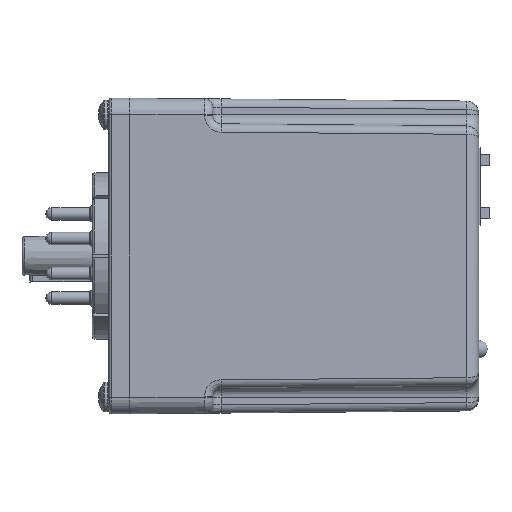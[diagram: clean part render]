
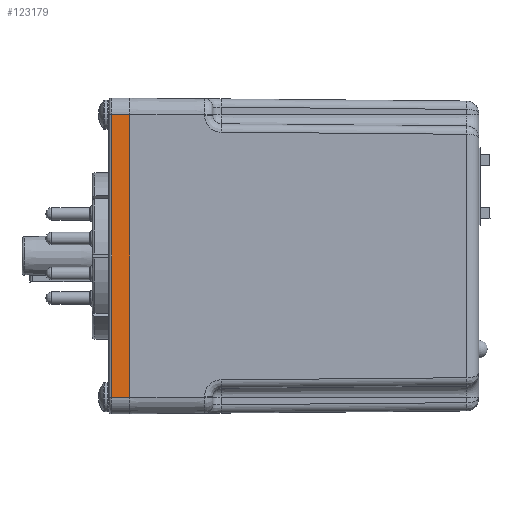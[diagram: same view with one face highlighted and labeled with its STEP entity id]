
A CAD part, left-side view. The second image highlights one B-rep face of the part: STEP entity #123179.
In plain terms, the highlighted planar face has unit normal (-1, 0, 0).
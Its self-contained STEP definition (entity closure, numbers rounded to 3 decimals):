
#103041 = PLANE('',#103042);
#103042 = AXIS2_PLACEMENT_3D('',#103043,#103044,#103045);
#103043 = CARTESIAN_POINT('',(-22.225,24.74,-30.163));
#103044 = DIRECTION('',(0.,1.,0.));
#103045 = DIRECTION('',(1.,0.,-0.));
#109964 = VERTEX_POINT('',#109965);
#109965 = CARTESIAN_POINT('',(-22.225,24.74,26.988));
#109984 = CYLINDRICAL_SURFACE('',#109985,3.175);
#109985 = AXIS2_PLACEMENT_3D('',#109986,#109987,#109988);
#109986 = CARTESIAN_POINT('',(-19.05,24.74,26.988));
#109987 = DIRECTION('',(0.,1.,0.));
#109988 = DIRECTION('',(0.,0.,-1.));
#109996 = EDGE_CURVE('',#109997,#109964,#109999,.T.);
#109997 = VERTEX_POINT('',#109998);
#109998 = CARTESIAN_POINT('',(-22.225,24.74,-26.988));
#109999 = SURFACE_CURVE('',#110000,(#110004,#110011),.PCURVE_S1.);
#110000 = LINE('',#110001,#110002);
#110001 = CARTESIAN_POINT('',(-22.225,24.74,-30.163));
#110002 = VECTOR('',#110003,1.);
#110003 = DIRECTION('',(0.,-0.,1.));
#110004 = PCURVE('',#103041,#110005);
#110005 = DEFINITIONAL_REPRESENTATION('',(#110006),#110010);
#110006 = LINE('',#110007,#110008);
#110007 = CARTESIAN_POINT('',(0.,0.));
#110008 = VECTOR('',#110009,1.);
#110009 = DIRECTION('',(0.,-1.));
#110010 = ( GEOMETRIC_REPRESENTATION_CONTEXT(2) 
PARAMETRIC_REPRESENTATION_CONTEXT() REPRESENTATION_CONTEXT('2D SPACE',''
  ) );
#110011 = PCURVE('',#110012,#110017);
#110012 = PLANE('',#110013);
#110013 = AXIS2_PLACEMENT_3D('',#110014,#110015,#110016);
#110014 = CARTESIAN_POINT('',(-22.225,24.74,-30.163));
#110015 = DIRECTION('',(1.,0.,0.));
#110016 = DIRECTION('',(0.,0.,-1.));
#110017 = DEFINITIONAL_REPRESENTATION('',(#110018),#110022);
#110018 = LINE('',#110019,#110020);
#110019 = CARTESIAN_POINT('',(0.,0.));
#110020 = VECTOR('',#110021,1.);
#110021 = DIRECTION('',(-1.,0.));
#110022 = ( GEOMETRIC_REPRESENTATION_CONTEXT(2) 
PARAMETRIC_REPRESENTATION_CONTEXT() REPRESENTATION_CONTEXT('2D SPACE',''
  ) );
#110045 = CYLINDRICAL_SURFACE('',#110046,3.175);
#110046 = AXIS2_PLACEMENT_3D('',#110047,#110048,#110049);
#110047 = CARTESIAN_POINT('',(-19.05,28.702,-26.988));
#110048 = DIRECTION('',(0.,-1.,0.));
#110049 = DIRECTION('',(0.,0.,1.));
#118258 = CYLINDRICAL_SURFACE('',#118259,0.508);
#118259 = AXIS2_PLACEMENT_3D('',#118260,#118261,#118262);
#118260 = CARTESIAN_POINT('',(-21.717,28.194,-30.163));
#118261 = DIRECTION('',(0.,0.,1.));
#118262 = DIRECTION('',(1.,0.,0.));
#123179 = ADVANCED_FACE('',(#123180),#110012,.F.);
#123180 = FACE_BOUND('',#123181,.T.);
#123181 = EDGE_LOOP('',(#123182,#123205,#123228,#123249));
#123182 = ORIENTED_EDGE('',*,*,#123183,.T.);
#123183 = EDGE_CURVE('',#109964,#123184,#123186,.T.);
#123184 = VERTEX_POINT('',#123185);
#123185 = CARTESIAN_POINT('',(-22.225,28.194,26.988));
#123186 = SURFACE_CURVE('',#123187,(#123191,#123198),.PCURVE_S1.);
#123187 = LINE('',#123188,#123189);
#123188 = CARTESIAN_POINT('',(-22.225,24.74,26.988));
#123189 = VECTOR('',#123190,1.);
#123190 = DIRECTION('',(0.,1.,0.));
#123191 = PCURVE('',#110012,#123192);
#123192 = DEFINITIONAL_REPRESENTATION('',(#123193),#123197);
#123193 = LINE('',#123194,#123195);
#123194 = CARTESIAN_POINT('',(-57.15,0.));
#123195 = VECTOR('',#123196,1.);
#123196 = DIRECTION('',(0.,1.));
#123197 = ( GEOMETRIC_REPRESENTATION_CONTEXT(2) 
PARAMETRIC_REPRESENTATION_CONTEXT() REPRESENTATION_CONTEXT('2D SPACE',''
  ) );
#123198 = PCURVE('',#109984,#123199);
#123199 = DEFINITIONAL_REPRESENTATION('',(#123200),#123204);
#123200 = LINE('',#123201,#123202);
#123201 = CARTESIAN_POINT('',(1.571,0.));
#123202 = VECTOR('',#123203,1.);
#123203 = DIRECTION('',(0.,1.));
#123204 = ( GEOMETRIC_REPRESENTATION_CONTEXT(2) 
PARAMETRIC_REPRESENTATION_CONTEXT() REPRESENTATION_CONTEXT('2D SPACE',''
  ) );
#123205 = ORIENTED_EDGE('',*,*,#123206,.T.);
#123206 = EDGE_CURVE('',#123184,#123207,#123209,.T.);
#123207 = VERTEX_POINT('',#123208);
#123208 = CARTESIAN_POINT('',(-22.225,28.194,-26.988));
#123209 = SURFACE_CURVE('',#123210,(#123214,#123221),.PCURVE_S1.);
#123210 = LINE('',#123211,#123212);
#123211 = CARTESIAN_POINT('',(-22.225,28.194,-30.163));
#123212 = VECTOR('',#123213,1.);
#123213 = DIRECTION('',(0.,0.,-1.));
#123214 = PCURVE('',#110012,#123215);
#123215 = DEFINITIONAL_REPRESENTATION('',(#123216),#123220);
#123216 = LINE('',#123217,#123218);
#123217 = CARTESIAN_POINT('',(0.,3.454));
#123218 = VECTOR('',#123219,1.);
#123219 = DIRECTION('',(1.,0.));
#123220 = ( GEOMETRIC_REPRESENTATION_CONTEXT(2) 
PARAMETRIC_REPRESENTATION_CONTEXT() REPRESENTATION_CONTEXT('2D SPACE',''
  ) );
#123221 = PCURVE('',#118258,#123222);
#123222 = DEFINITIONAL_REPRESENTATION('',(#123223),#123227);
#123223 = LINE('',#123224,#123225);
#123224 = CARTESIAN_POINT('',(3.142,0.));
#123225 = VECTOR('',#123226,1.);
#123226 = DIRECTION('',(0.,-1.));
#123227 = ( GEOMETRIC_REPRESENTATION_CONTEXT(2) 
PARAMETRIC_REPRESENTATION_CONTEXT() REPRESENTATION_CONTEXT('2D SPACE',''
  ) );
#123228 = ORIENTED_EDGE('',*,*,#123229,.T.);
#123229 = EDGE_CURVE('',#123207,#109997,#123230,.T.);
#123230 = SURFACE_CURVE('',#123231,(#123235,#123242),.PCURVE_S1.);
#123231 = LINE('',#123232,#123233);
#123232 = CARTESIAN_POINT('',(-22.225,24.74,-26.988));
#123233 = VECTOR('',#123234,1.);
#123234 = DIRECTION('',(0.,-1.,0.));
#123235 = PCURVE('',#110012,#123236);
#123236 = DEFINITIONAL_REPRESENTATION('',(#123237),#123241);
#123237 = LINE('',#123238,#123239);
#123238 = CARTESIAN_POINT('',(-3.175,0.));
#123239 = VECTOR('',#123240,1.);
#123240 = DIRECTION('',(0.,-1.));
#123241 = ( GEOMETRIC_REPRESENTATION_CONTEXT(2) 
PARAMETRIC_REPRESENTATION_CONTEXT() REPRESENTATION_CONTEXT('2D SPACE',''
  ) );
#123242 = PCURVE('',#110045,#123243);
#123243 = DEFINITIONAL_REPRESENTATION('',(#123244),#123248);
#123244 = LINE('',#123245,#123246);
#123245 = CARTESIAN_POINT('',(1.571,3.962));
#123246 = VECTOR('',#123247,1.);
#123247 = DIRECTION('',(0.,1.));
#123248 = ( GEOMETRIC_REPRESENTATION_CONTEXT(2) 
PARAMETRIC_REPRESENTATION_CONTEXT() REPRESENTATION_CONTEXT('2D SPACE',''
  ) );
#123249 = ORIENTED_EDGE('',*,*,#109996,.T.);
